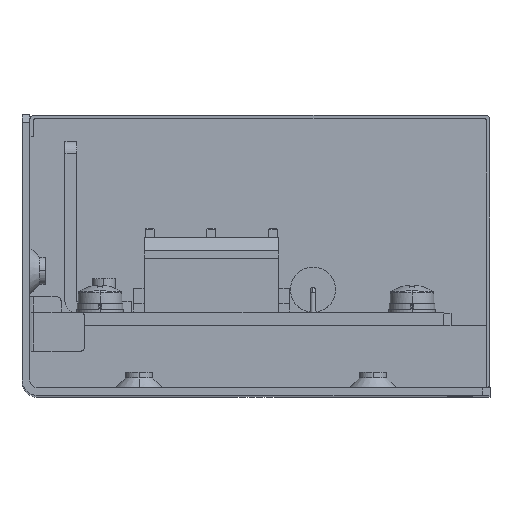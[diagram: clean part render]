
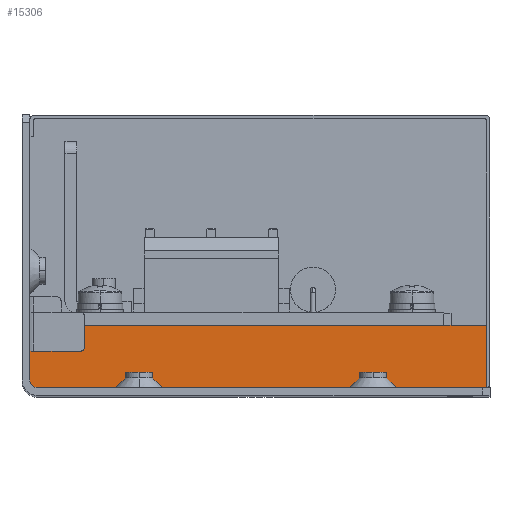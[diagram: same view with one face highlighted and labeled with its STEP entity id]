
A CAD part, top view. The second image highlights one B-rep face of the part: STEP entity #15306.
In plain terms, the highlighted planar face has unit normal (0, 0, 1).
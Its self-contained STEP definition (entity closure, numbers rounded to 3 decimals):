
#13 = LINE ( 'NONE', #24535, #2783 ) ;
#124 = CARTESIAN_POINT ( 'NONE',  ( -58., 1., -10.1 ) ) ;
#200 = DIRECTION ( 'NONE',  ( 0., 0., -1. ) ) ;
#211 = VERTEX_POINT ( 'NONE', #22025 ) ;
#674 = CARTESIAN_POINT ( 'NONE',  ( -0.5, 9., -10.1 ) ) ;
#761 = CARTESIAN_POINT ( 'NONE',  ( -58.8, 9., -10.1 ) ) ;
#887 = CARTESIAN_POINT ( 'NONE',  ( -55., 1., -10.1 ) ) ;
#1135 = EDGE_CURVE ( 'NONE', #8890, #25925, #17504, .T. ) ;
#1321 = CARTESIAN_POINT ( 'NONE',  ( -30., 1., -10.1 ) ) ;
#1596 = EDGE_CURVE ( 'NONE', #23533, #30216, #27071, .T. ) ;
#1707 = EDGE_CURVE ( 'NONE', #26203, #211, #14197, .T. ) ;
#1721 = ORIENTED_EDGE ( 'NONE', *, *, #2232, .T. ) ;
#1790 = CARTESIAN_POINT ( 'NONE',  ( -59., 2., -10.1 ) ) ;
#2002 = ORIENTED_EDGE ( 'NONE', *, *, #12106, .T. ) ;
#2158 = LINE ( 'NONE', #20349, #16713 ) ;
#2232 = EDGE_CURVE ( 'NONE', #4164, #25923, #2158, .T. ) ;
#2783 = VECTOR ( 'NONE', #21445, 1000. ) ;
#2989 = EDGE_CURVE ( 'NONE', #27706, #3927, #4458, .T. ) ;
#3423 = CARTESIAN_POINT ( 'NONE',  ( -0.5, 9., -10.1 ) ) ;
#3850 = LINE ( 'NONE', #674, #26047 ) ;
#3868 = CARTESIAN_POINT ( 'NONE',  ( -15., 1., -10.1 ) ) ;
#3927 = VERTEX_POINT ( 'NONE', #124 ) ;
#4164 = VERTEX_POINT ( 'NONE', #3868 ) ;
#4458 = LINE ( 'NONE', #1321, #17867 ) ;
#5143 = VECTOR ( 'NONE', #28378, 1000. ) ;
#5156 = VECTOR ( 'NONE', #18401, 1000. ) ;
#5332 = CARTESIAN_POINT ( 'NONE',  ( -45., 1., -10.1 ) ) ;
#5570 = AXIS2_PLACEMENT_3D ( 'NONE', #22152, #18980, #15777 ) ;
#5831 = ORIENTED_EDGE ( 'NONE', *, *, #16706, .F. ) ;
#6256 = EDGE_CURVE ( 'NONE', #18233, #10520, #13, .T. ) ;
#6367 = EDGE_CURVE ( 'NONE', #17584, #25923, #26385, .T. ) ;
#6517 = PLANE ( 'NONE',  #10121 ) ;
#6562 = EDGE_CURVE ( 'NONE', #13150, #211, #24672, .T. ) ;
#6600 = DIRECTION ( 'NONE',  ( 1., 0., 0. ) ) ;
#6849 = CIRCLE ( 'NONE', #5570, 1. ) ;
#7056 = LINE ( 'NONE', #761, #5143 ) ;
#7075 = VECTOR ( 'NONE', #7920, 1000. ) ;
#7345 = CARTESIAN_POINT ( 'NONE',  ( -58.8, 5.7, -10.1 ) ) ;
#7394 = ORIENTED_EDGE ( 'NONE', *, *, #25329, .F. ) ;
#7920 = DIRECTION ( 'NONE',  ( -1., 0., 0. ) ) ;
#8525 = FACE_OUTER_BOUND ( 'NONE', #11556, .T. ) ;
#8890 = VERTEX_POINT ( 'NONE', #14578 ) ;
#8900 = VECTOR ( 'NONE', #9757, 1000. ) ;
#9571 = VECTOR ( 'NONE', #11252, 1000. ) ;
#9709 = CARTESIAN_POINT ( 'NONE',  ( -0.5, 9., -10.1 ) ) ;
#9757 = DIRECTION ( 'NONE',  ( 1., 0., 0. ) ) ;
#10121 = AXIS2_PLACEMENT_3D ( 'NONE', #3423, #200, #27850 ) ;
#10237 = ORIENTED_EDGE ( 'NONE', *, *, #10647, .F. ) ;
#10258 = ORIENTED_EDGE ( 'NONE', *, *, #24380, .F. ) ;
#10520 = VERTEX_POINT ( 'NONE', #21966 ) ;
#10647 = EDGE_CURVE ( 'NONE', #26203, #18233, #7056, .T. ) ;
#10784 = ORIENTED_EDGE ( 'NONE', *, *, #6256, .F. ) ;
#11024 = CARTESIAN_POINT ( 'NONE',  ( -58.5, 5.7, -10.1 ) ) ;
#11115 = DIRECTION ( 'NONE',  ( -1., 0., 0. ) ) ;
#11252 = DIRECTION ( 'NONE',  ( 0., 1., 0. ) ) ;
#11556 = EDGE_LOOP ( 'NONE', ( #25828, #12261, #13521, #17679, #14379, #10258, #1721, #19581, #2002, #20325, #5831, #7394, #20624, #10784, #10237, #30765, #24147, #13952 ) ) ;
#12106 = EDGE_CURVE ( 'NONE', #17584, #30216, #27457, .T. ) ;
#12261 = ORIENTED_EDGE ( 'NONE', *, *, #2989, .F. ) ;
#12863 = LINE ( 'NONE', #9709, #15461 ) ;
#12920 = CARTESIAN_POINT ( 'NONE',  ( -8., 1., -10.1 ) ) ;
#13120 = DIRECTION ( 'NONE',  ( -1., 0., 0. ) ) ;
#13150 = VERTEX_POINT ( 'NONE', #19311 ) ;
#13166 = EDGE_CURVE ( 'NONE', #27706, #25925, #16118, .T. ) ;
#13388 = CARTESIAN_POINT ( 'NONE',  ( -5., 1., -10.1 ) ) ;
#13521 = ORIENTED_EDGE ( 'NONE', *, *, #13166, .T. ) ;
#13613 = EDGE_CURVE ( 'NONE', #10520, #13946, #3850, .T. ) ;
#13715 = VECTOR ( 'NONE', #11115, 1000. ) ;
#13871 = VERTEX_POINT ( 'NONE', #15687 ) ;
#13913 = DIRECTION ( 'NONE',  ( 0., -1., 0. ) ) ;
#13946 = VERTEX_POINT ( 'NONE', #16808 ) ;
#13952 = ORIENTED_EDGE ( 'NONE', *, *, #21499, .F. ) ;
#14197 = LINE ( 'NONE', #11024, #7075 ) ;
#14290 = CARTESIAN_POINT ( 'NONE',  ( -30., 1., -10.1 ) ) ;
#14379 = ORIENTED_EDGE ( 'NONE', *, *, #29703, .T. ) ;
#14432 = CARTESIAN_POINT ( 'NONE',  ( -59., 9., -10.1 ) ) ;
#14442 = EDGE_CURVE ( 'NONE', #30287, #3927, #6849, .T. ) ;
#14578 = CARTESIAN_POINT ( 'NONE',  ( -46.5, 1., -10.1 ) ) ;
#14930 = DIRECTION ( 'NONE',  ( 1., 0., 0. ) ) ;
#15306 = ADVANCED_FACE ( 'NONE', ( #8525 ), #6517, .F. ) ;
#15461 = VECTOR ( 'NONE', #6600, 1000. ) ;
#15687 = CARTESIAN_POINT ( 'NONE',  ( -0.5, 9., -10.1 ) ) ;
#15777 = DIRECTION ( 'NONE',  ( 1., 0., 0. ) ) ;
#16118 = LINE ( 'NONE', #12920, #8900 ) ;
#16317 = CARTESIAN_POINT ( 'NONE',  ( -30., 1., -10.1 ) ) ;
#16706 = EDGE_CURVE ( 'NONE', #13871, #23533, #20305, .T. ) ;
#16713 = VECTOR ( 'NONE', #17160, 1000. ) ;
#16808 = CARTESIAN_POINT ( 'NONE',  ( -5.9, 9., -10.1 ) ) ;
#17120 = CARTESIAN_POINT ( 'NONE',  ( -0.5, 9., -10.1 ) ) ;
#17160 = DIRECTION ( 'NONE',  ( 1., 0., 0. ) ) ;
#17504 = LINE ( 'NONE', #14290, #13715 ) ;
#17584 = VERTEX_POINT ( 'NONE', #22434 ) ;
#17653 = LINE ( 'NONE', #14432, #9571 ) ;
#17679 = ORIENTED_EDGE ( 'NONE', *, *, #1135, .F. ) ;
#17728 = VECTOR ( 'NONE', #20807, 1000. ) ;
#17867 = VECTOR ( 'NONE', #28917, 1000. ) ;
#17963 = CARTESIAN_POINT ( 'NONE',  ( -53.5, 1., -10.1 ) ) ;
#18123 = CARTESIAN_POINT ( 'NONE',  ( -8., 1., -10.1 ) ) ;
#18233 = VERTEX_POINT ( 'NONE', #26564 ) ;
#18401 = DIRECTION ( 'NONE',  ( 0., 1., 0. ) ) ;
#18980 = DIRECTION ( 'NONE',  ( 0., 0., 1. ) ) ;
#19311 = CARTESIAN_POINT ( 'NONE',  ( -59., 4.5, -10.1 ) ) ;
#19523 = LINE ( 'NONE', #16317, #26382 ) ;
#19581 = ORIENTED_EDGE ( 'NONE', *, *, #6367, .F. ) ;
#20130 = DIRECTION ( 'NONE',  ( -1., 0., 0. ) ) ;
#20305 = LINE ( 'NONE', #17120, #21915 ) ;
#20325 = ORIENTED_EDGE ( 'NONE', *, *, #1596, .F. ) ;
#20349 = CARTESIAN_POINT ( 'NONE',  ( -8., 1., -10.1 ) ) ;
#20624 = ORIENTED_EDGE ( 'NONE', *, *, #13613, .F. ) ;
#20807 = DIRECTION ( 'NONE',  ( -1., 0., 0. ) ) ;
#20922 = VECTOR ( 'NONE', #21202, 1000. ) ;
#21123 = CARTESIAN_POINT ( 'NONE',  ( -13.5, 1., -10.1 ) ) ;
#21202 = DIRECTION ( 'NONE',  ( 1., 0., 0. ) ) ;
#21296 = LINE ( 'NONE', #18123, #26570 ) ;
#21445 = DIRECTION ( 'NONE',  ( 1., 0., 0. ) ) ;
#21499 = EDGE_CURVE ( 'NONE', #30287, #13150, #17653, .T. ) ;
#21595 = CARTESIAN_POINT ( 'NONE',  ( -59., 9., -10.1 ) ) ;
#21915 = VECTOR ( 'NONE', #13913, 1000. ) ;
#21966 = CARTESIAN_POINT ( 'NONE',  ( -54.1, 9., -10.1 ) ) ;
#22025 = CARTESIAN_POINT ( 'NONE',  ( -59., 5.7, -10.1 ) ) ;
#22152 = CARTESIAN_POINT ( 'NONE',  ( -58., 2., -10.1 ) ) ;
#22434 = CARTESIAN_POINT ( 'NONE',  ( -6.5, 1., -10.1 ) ) ;
#23240 = CARTESIAN_POINT ( 'NONE',  ( -30., 1., -10.1 ) ) ;
#23479 = CARTESIAN_POINT ( 'NONE',  ( -0.5, 1., -10.1 ) ) ;
#23533 = VERTEX_POINT ( 'NONE', #23479 ) ;
#23908 = CARTESIAN_POINT ( 'NONE',  ( -30., 1., -10.1 ) ) ;
#24147 = ORIENTED_EDGE ( 'NONE', *, *, #6562, .F. ) ;
#24306 = CARTESIAN_POINT ( 'NONE',  ( -8., 1., -10.1 ) ) ;
#24380 = EDGE_CURVE ( 'NONE', #4164, #30611, #19523, .T. ) ;
#24535 = CARTESIAN_POINT ( 'NONE',  ( -0.5, 9., -10.1 ) ) ;
#24672 = LINE ( 'NONE', #21595, #5156 ) ;
#25329 = EDGE_CURVE ( 'NONE', #13946, #13871, #12863, .T. ) ;
#25828 = ORIENTED_EDGE ( 'NONE', *, *, #14442, .T. ) ;
#25923 = VERTEX_POINT ( 'NONE', #21123 ) ;
#25925 = VERTEX_POINT ( 'NONE', #17963 ) ;
#26047 = VECTOR ( 'NONE', #28292, 1000. ) ;
#26203 = VERTEX_POINT ( 'NONE', #7345 ) ;
#26382 = VECTOR ( 'NONE', #13120, 1000. ) ;
#26385 = LINE ( 'NONE', #23240, #27207 ) ;
#26564 = CARTESIAN_POINT ( 'NONE',  ( -58.8, 9., -10.1 ) ) ;
#26570 = VECTOR ( 'NONE', #14930, 1000. ) ;
#27071 = LINE ( 'NONE', #23908, #17728 ) ;
#27207 = VECTOR ( 'NONE', #20130, 1000. ) ;
#27457 = LINE ( 'NONE', #24306, #20922 ) ;
#27706 = VERTEX_POINT ( 'NONE', #887 ) ;
#27850 = DIRECTION ( 'NONE',  ( 0., 1., 0. ) ) ;
#28292 = DIRECTION ( 'NONE',  ( 1., 0., 0. ) ) ;
#28378 = DIRECTION ( 'NONE',  ( 0., 1., 0. ) ) ;
#28917 = DIRECTION ( 'NONE',  ( -1., 0., 0. ) ) ;
#29703 = EDGE_CURVE ( 'NONE', #8890, #30611, #21296, .T. ) ;
#30216 = VERTEX_POINT ( 'NONE', #13388 ) ;
#30287 = VERTEX_POINT ( 'NONE', #1790 ) ;
#30611 = VERTEX_POINT ( 'NONE', #5332 ) ;
#30765 = ORIENTED_EDGE ( 'NONE', *, *, #1707, .T. ) ;
